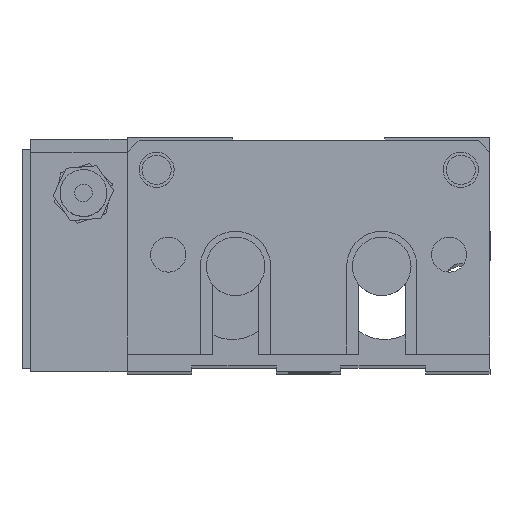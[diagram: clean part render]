
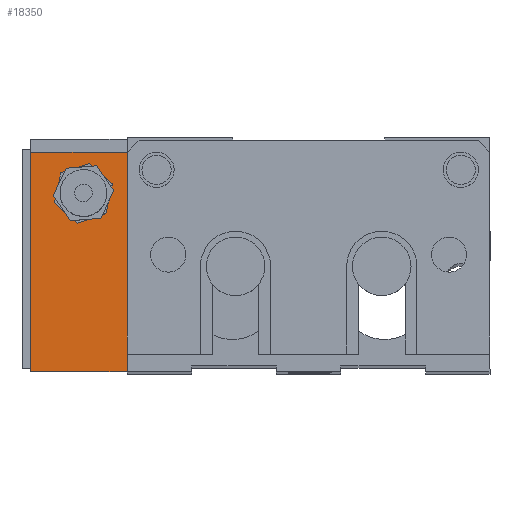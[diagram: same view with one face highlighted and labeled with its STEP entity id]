
A CAD part, top view. The second image highlights one B-rep face of the part: STEP entity #18350.
In plain terms, the highlighted planar face has unit normal (0, 0, 1) as drawn and (0, 0, -1) by its records, which use the part's own axes.
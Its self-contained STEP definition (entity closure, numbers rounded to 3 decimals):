
#11448 = VERTEX_POINT ( 'NONE', #16877 ) ;
#12709 = VERTEX_POINT ( 'NONE', #17003 ) ;
#12908 = VERTEX_POINT ( 'NONE', #17034 ) ;
#13612 = EDGE_CURVE ( 'NONE', #12709, #14945, #17219, .T. ) ;
#14585 = EDGE_CURVE ( 'NONE', #14945, #12908, #17324, .T. ) ;
#14945 = VERTEX_POINT ( 'NONE', #18129 ) ;
#15324 = EDGE_CURVE ( 'NONE', #19863, #11448, #18105, .T. ) ;
#16858 = VERTEX_POINT ( 'NONE', #18258 ) ;
#16877 = CARTESIAN_POINT ( 'NONE',  ( 13., 30.5, 0. ) ) ;
#17003 = CARTESIAN_POINT ( 'NONE',  ( 0., 22.5, 0. ) ) ;
#17034 = CARTESIAN_POINT ( 'NONE',  ( 18., 0., 0. ) ) ;
#17189 = VERTEX_POINT ( 'NONE', #18245 ) ;
#17212 = DIRECTION ( 'NONE',  ( 0., -1., 0. ) ) ;
#17214 = VECTOR ( 'NONE', #17212, 1000. ) ;
#17216 = CARTESIAN_POINT ( 'NONE',  ( 0., 0., 0. ) ) ;
#17219 = LINE ( 'NONE', #17216, #17214 ) ;
#17261 = CARTESIAN_POINT ( 'NONE',  ( 0., 0., 0. ) ) ;
#17312 = DIRECTION ( 'NONE',  ( 1., 0., 0. ) ) ;
#17314 = VECTOR ( 'NONE', #17312, 1000. ) ;
#17324 = LINE ( 'NONE', #17261, #17314 ) ;
#17475 = EDGE_CURVE ( 'NONE', #16858, #17189, #18207, .T. ) ;
#17900 = EDGE_CURVE ( 'NONE', #12908, #16858, #18334, .T. ) ;
#18026 = ORIENTED_EDGE ( 'NONE', *, *, #18088, .T. ) ;
#18088 = EDGE_CURVE ( 'NONE', #18148, #17189, #18313, .T. ) ;
#18105 = CIRCLE ( 'NONE', #18168, 4. ) ;
#18115 = EDGE_LOOP ( 'NONE', ( #18026, #18461, #18410, #18286, #18488, #18551 ) ) ;
#18129 = CARTESIAN_POINT ( 'NONE',  ( 0., 0., 0. ) ) ;
#18145 = DIRECTION ( 'NONE',  ( 1., 0., 0. ) ) ;
#18146 = DIRECTION ( 'NONE',  ( 0., 0., 1. ) ) ;
#18148 = VERTEX_POINT ( 'NONE', #18357 ) ;
#18159 = CARTESIAN_POINT ( 'NONE',  ( 9., 30.5, 0. ) ) ;
#18168 = AXIS2_PLACEMENT_3D ( 'NONE', #18159, #18146, #18145 ) ;
#18207 = LINE ( 'NONE', #18294, #18293 ) ;
#18245 = CARTESIAN_POINT ( 'NONE',  ( 1.5, 37.5, 0. ) ) ;
#18258 = CARTESIAN_POINT ( 'NONE',  ( 18., 37.5, 0. ) ) ;
#18277 = ORIENTED_EDGE ( 'NONE', *, *, #18463, .T. ) ;
#18286 = ORIENTED_EDGE ( 'NONE', *, *, #14585, .F. ) ;
#18292 = DIRECTION ( 'NONE',  ( -1., 0., 0. ) ) ;
#18293 = VECTOR ( 'NONE', #18292, 1000. ) ;
#18294 = CARTESIAN_POINT ( 'NONE',  ( 0., 37.5, 0. ) ) ;
#18313 = LINE ( 'NONE', #18360, #18359 ) ;
#18319 = DIRECTION ( 'NONE',  ( 0., 1., 0. ) ) ;
#18321 = VECTOR ( 'NONE', #18319, 1000. ) ;
#18333 = CARTESIAN_POINT ( 'NONE',  ( 18., 0., 0. ) ) ;
#18334 = LINE ( 'NONE', #18333, #18321 ) ;
#18344 = DIRECTION ( 'NONE',  ( -1., 0., 0. ) ) ;
#18345 = DIRECTION ( 'NONE',  ( 0., 0., -1. ) ) ;
#18346 = CARTESIAN_POINT ( 'NONE',  ( 0., 37.5, 0. ) ) ;
#18350 = ADVANCED_FACE ( 'NONE', ( #18356, #18353 ), #18355, .T. ) ;
#18351 = AXIS2_PLACEMENT_3D ( 'NONE', #18346, #18345, #18344 ) ;
#18353 = FACE_BOUND ( 'NONE', #18413, .T. ) ;
#18355 = PLANE ( 'NONE',  #18351 ) ;
#18356 = FACE_OUTER_BOUND ( 'NONE', #18115, .T. ) ;
#18357 = CARTESIAN_POINT ( 'NONE',  ( 1.5, 22.5, 0. ) ) ;
#18358 = DIRECTION ( 'NONE',  ( 0., 1., 0. ) ) ;
#18359 = VECTOR ( 'NONE', #18358, 1000. ) ;
#18360 = CARTESIAN_POINT ( 'NONE',  ( 1.5, 22.5, 0. ) ) ;
#18410 = ORIENTED_EDGE ( 'NONE', *, *, #17900, .F. ) ;
#18413 = EDGE_LOOP ( 'NONE', ( #18277, #18433 ) ) ;
#18414 = DIRECTION ( 'NONE',  ( -1., 0., 0. ) ) ;
#18417 = DIRECTION ( 'NONE',  ( 1., 0., 0. ) ) ;
#18418 = DIRECTION ( 'NONE',  ( 0., 0., 1. ) ) ;
#18419 = CARTESIAN_POINT ( 'NONE',  ( 9., 30.5, 0. ) ) ;
#18420 = AXIS2_PLACEMENT_3D ( 'NONE', #18419, #18418, #18417 ) ;
#18425 = VECTOR ( 'NONE', #18414, 1000. ) ;
#18426 = CARTESIAN_POINT ( 'NONE',  ( 0., 22.5, 0. ) ) ;
#18427 = LINE ( 'NONE', #18426, #18425 ) ;
#18428 = CIRCLE ( 'NONE', #18420, 4. ) ;
#18433 = ORIENTED_EDGE ( 'NONE', *, *, #15324, .T. ) ;
#18461 = ORIENTED_EDGE ( 'NONE', *, *, #17475, .F. ) ;
#18463 = EDGE_CURVE ( 'NONE', #11448, #19863, #18428, .T. ) ;
#18481 = EDGE_CURVE ( 'NONE', #18148, #12709, #18427, .T. ) ;
#18488 = ORIENTED_EDGE ( 'NONE', *, *, #13612, .F. ) ;
#18551 = ORIENTED_EDGE ( 'NONE', *, *, #18481, .F. ) ;
#18668 = CARTESIAN_POINT ( 'NONE',  ( 5., 30.5, 0. ) ) ;
#19863 = VERTEX_POINT ( 'NONE', #18668 ) ;
